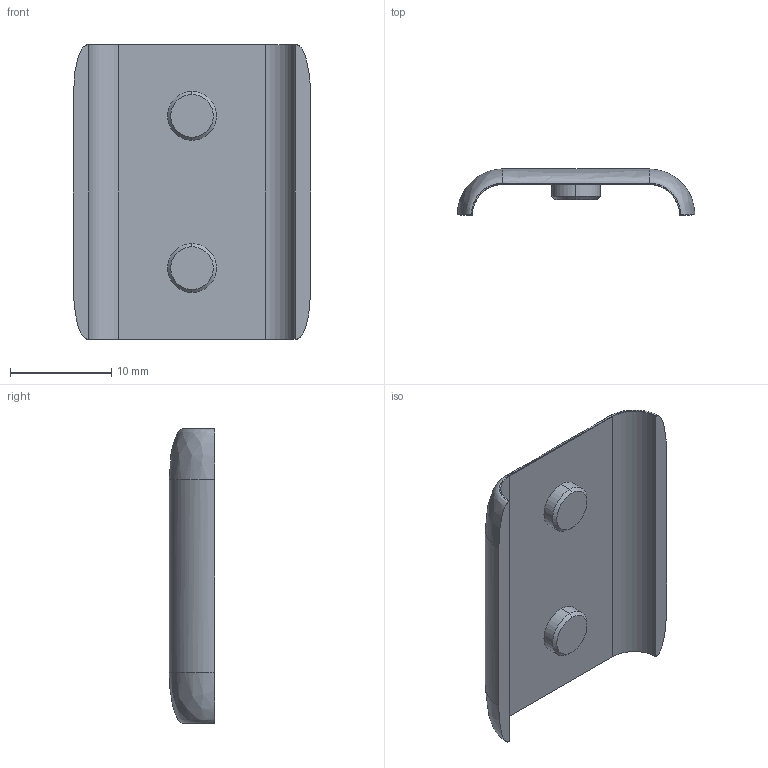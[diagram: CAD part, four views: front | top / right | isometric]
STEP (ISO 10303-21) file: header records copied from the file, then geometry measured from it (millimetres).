
FILE_DESCRIPTION (( 'STEP AP203' ), '1' );
FILE_NAME ('Êðûøêà-ñîåäèíèòåëü V2.STEP', '2025-09-10T17:55:44', ( '' ), ( '' ), 'SwSTEP 2.0', 'SolidWorks 2024', '' );
FILE_SCHEMA (( 'CONFIG_CONTROL_DESIGN' ));
Length unit declared in the file: millimetre
Products named in the file (1): Крышка-соединитель V2
Bounding box: 23.4 x 4.5 x 29 mm (x, y, z)
Volume: 1109 mm3; surface area: 1656.5 mm2
Topology: 1 solids, 1 shells, 26 faces, 58 edges, 36 vertices
Faces by surface type: cylinder 8, plane 8, bspline 6, cone 4
Entity records: 1102 total; most frequent: CARTESIAN_POINT 500, ORIENTED_EDGE 116, DIRECTION 96, EDGE_CURVE 58, AXIS2_PLACEMENT_3D 37, VERTEX_POINT 36, EDGE_LOOP 28, FACE_OUTER_BOUND 26
